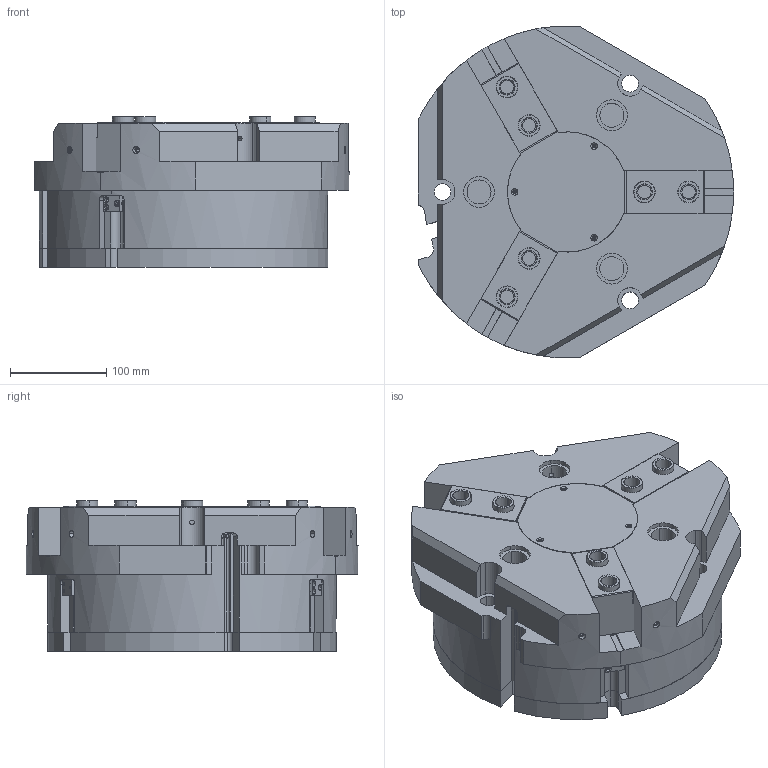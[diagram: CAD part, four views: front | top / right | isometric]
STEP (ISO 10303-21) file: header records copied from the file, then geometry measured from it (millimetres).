
FILE_DESCRIPTION (( 'STEP AP214' ), '1' );
FILE_NAME ('FCT300A-1.STEP', '2021-09-17T11:33:33', ( 'DEEP' ), ( 'Microsoft' ), 'SwSTEP 2.0', 'SolidWorks 2016', '' );
FILE_SCHEMA (( 'AUTOMOTIVE_DESIGN' ));
Length unit declared in the file: millimetre
Products named in the file (22): FPT-000-1-01-003a; FCT300A-1-01-008a; FCT300A-1-01-002a; FCT300A-1-01-004a; FCT300A-1-01-001a; FCT300A-1; 9瘍隅弇杶a
Assembly tree (15 placements, depth 2):
  FPT-000-1-01-003a
  FPT-000-1-01-003a
  FCT300A-1-01-008a
  FCT300A-1-01-008a
  FCT300A-1-01-008a
Bounding box: 327.5 x 345 x 156.6 mm (x, y, z)
Volume: 8598268.8 mm3; surface area: 758073.2 mm2
Topology: 15 solids, 15 shells, 718 faces, 1779 edges, 1109 vertices
Faces by surface type: plane 312, cylinder 294, cone 112
Entity records: 16972 total; most frequent: CARTESIAN_POINT 3645, DIRECTION 2647, ORIENTED_EDGE 2426, EDGE_CURVE 1213, AXIS2_PLACEMENT_3D 981, VERTEX_POINT 789, VECTOR 685, LINE 685
